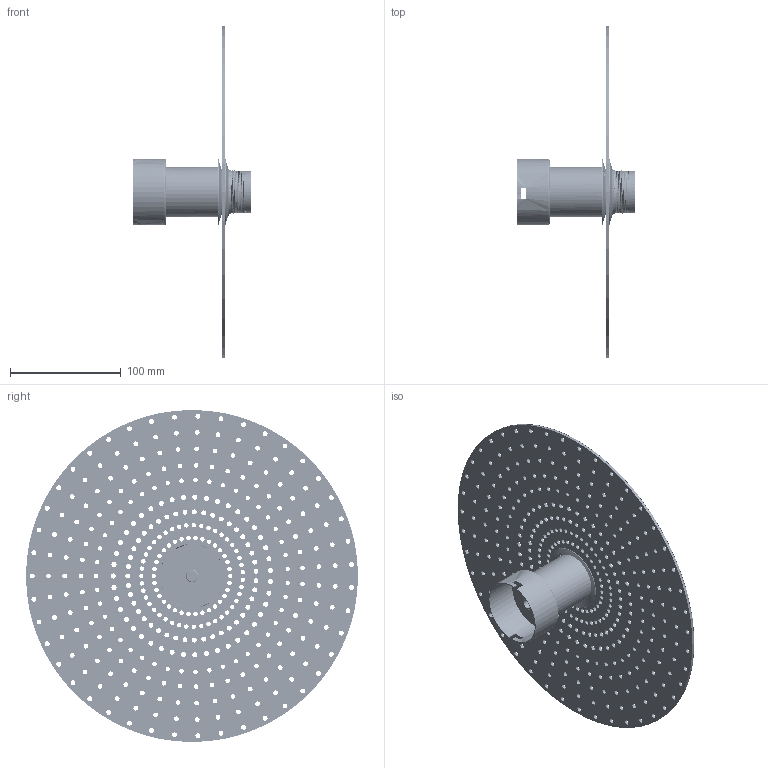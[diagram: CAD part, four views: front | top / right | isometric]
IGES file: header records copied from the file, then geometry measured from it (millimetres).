
Start section: SolidWorks IGES file using analytic representation for surfaces
Global section: file name: C:\Users\adrian\Desktop\MODELADOS USA\TAN TAN\A1225.IGS; native system: SolidWorks 2023; preprocessor: SolidWorks 2023; author: adrian; date: 260609.125932; units: inch
Bounding box: 106.74 x 299.97 x 299.97 mm (x, y, z)
Surface area: 196351.7 mm2 (no closed solid volume)
Topology: 0 solids, 0 shells, 985 faces, 33168 edges, 33168 vertices
Faces by surface type: revolution 758, bspline 227
